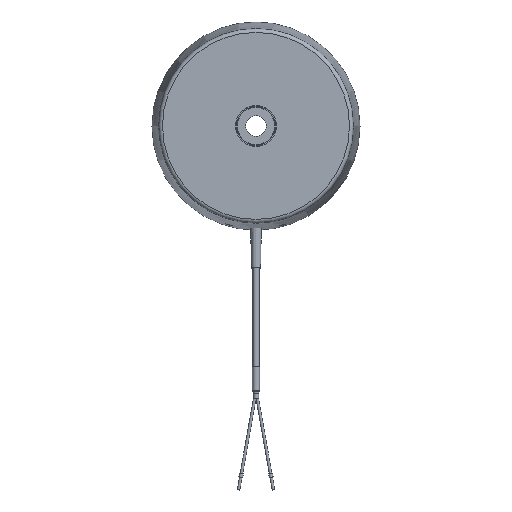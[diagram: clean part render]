
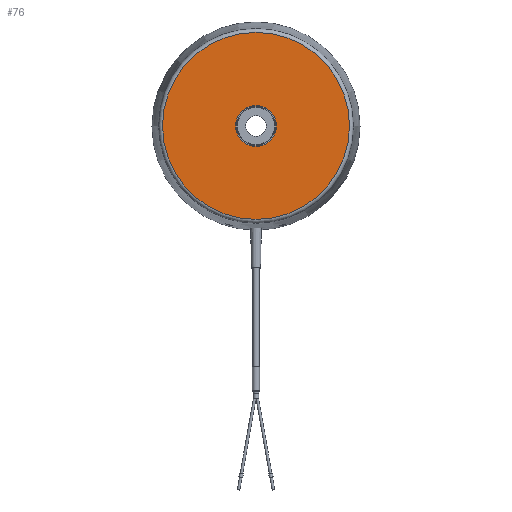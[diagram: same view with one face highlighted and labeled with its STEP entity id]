
A CAD part, top view. The second image highlights one B-rep face of the part: STEP entity #76.
In plain terms, the highlighted planar face has unit normal (0, 0, 1).
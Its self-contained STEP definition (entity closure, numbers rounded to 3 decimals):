
#76 = ADVANCED_FACE( '', ( #136, #137 ), #138, .T. );
#136 = FACE_BOUND( '', #293, .T. );
#137 = FACE_OUTER_BOUND( '', #294, .T. );
#138 = PLANE( '', #295 );
#293 = EDGE_LOOP( '', ( #452 ) );
#294 = EDGE_LOOP( '', ( #453 ) );
#295 = AXIS2_PLACEMENT_3D( '', #454, #455, #456 );
#452 = ORIENTED_EDGE( '', *, *, #735, .T. );
#453 = ORIENTED_EDGE( '', *, *, #736, .F. );
#454 = CARTESIAN_POINT( '', ( 0., 73.473, 63.19 ) );
#455 = DIRECTION( '', ( 0., 0., 1. ) );
#456 = DIRECTION( '', ( 1., 0., 0. ) );
#735 = EDGE_CURVE( '', #802, #802, #803, .T. );
#736 = EDGE_CURVE( '', #804, #804, #805, .T. );
#802 = VERTEX_POINT( '', #1106 );
#803 = CIRCLE( '', #1107, 16.05 );
#804 = VERTEX_POINT( '', #1108 );
#805 = CIRCLE( '', #1109, 73.473 );
#1106 = CARTESIAN_POINT( '', ( -16.05, 0., 63.19 ) );
#1107 = AXIS2_PLACEMENT_3D( '', #1233, #1234, #1235 );
#1108 = CARTESIAN_POINT( '', ( -73.473, 0., 63.19 ) );
#1109 = AXIS2_PLACEMENT_3D( '', #1236, #1237, #1238 );
#1233 = CARTESIAN_POINT( '', ( 0., 0., 63.19 ) );
#1234 = DIRECTION( '', ( 0., 0., -1. ) );
#1235 = DIRECTION( '', ( -1., 0., 0. ) );
#1236 = CARTESIAN_POINT( '', ( 0., 0., 63.19 ) );
#1237 = DIRECTION( '', ( 0., 0., -1. ) );
#1238 = DIRECTION( '', ( -1., 0., 0. ) );
